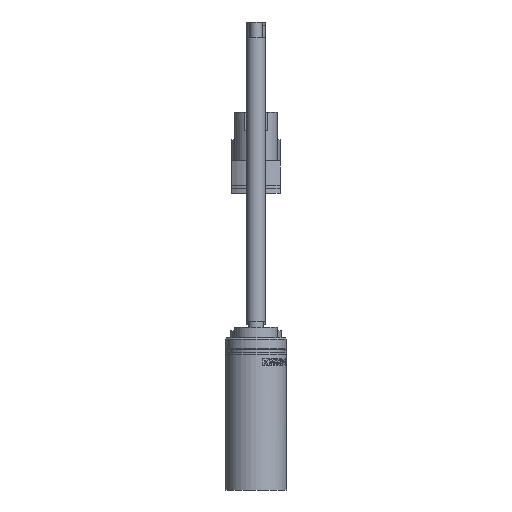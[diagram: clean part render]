
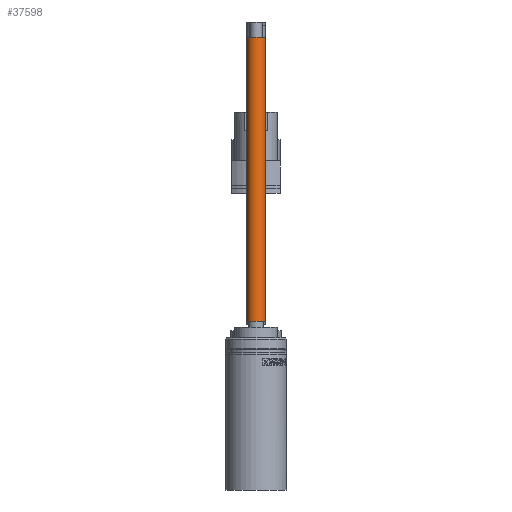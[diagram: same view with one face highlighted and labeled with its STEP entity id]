
A CAD part, left-side view. The second image highlights one B-rep face of the part: STEP entity #37598.
In plain terms, the highlighted cylindrical face has radius 1.5 mm (diameter 3 mm), a full revolution.
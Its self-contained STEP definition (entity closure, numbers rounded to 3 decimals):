
#37598=ADVANCED_FACE('',(#40397,#40398),#38338,.T.);
#38338=CYLINDRICAL_SURFACE('',#84121,1.5);
#40397=FACE_BOUND('',#45379,.T.);
#40398=FACE_BOUND('',#45380,.T.);
#45379=EDGE_LOOP('',(#62635));
#45380=EDGE_LOOP('',(#62636));
#62635=ORIENTED_EDGE('',*,*,#77333,.F.);
#62636=ORIENTED_EDGE('',*,*,#77332,.F.);
#68704=VERTEX_POINT('',#158358);
#68705=VERTEX_POINT('',#158361);
#77332=EDGE_CURVE('',#68704,#68704,#79272,.T.);
#77333=EDGE_CURVE('',#68705,#68705,#79273,.T.);
#79272=CIRCLE('',#84118,1.5);
#79273=CIRCLE('',#84120,1.5);
#84118=AXIS2_PLACEMENT_3D('',#158357,#95825,#95826);
#84120=AXIS2_PLACEMENT_3D('',#158360,#95829,#95830);
#84121=AXIS2_PLACEMENT_3D('',#158362,#95831,#95832);
#95825=DIRECTION('',(0.,0.,1.));
#95826=DIRECTION('',(-1.,0.,0.));
#95829=DIRECTION('',(0.,0.,-1.));
#95830=DIRECTION('',(-1.,0.,0.));
#95831=DIRECTION('',(0.,0.,-1.));
#95832=DIRECTION('',(-1.,0.,0.));
#158357=CARTESIAN_POINT('',(-210.,0.,74.15));
#158358=CARTESIAN_POINT('',(-211.5,0.,74.15));
#158360=CARTESIAN_POINT('',(-210.,0.,27.6));
#158361=CARTESIAN_POINT('',(-211.5,0.,27.6));
#158362=CARTESIAN_POINT('',(-210.,0.,24.9));
